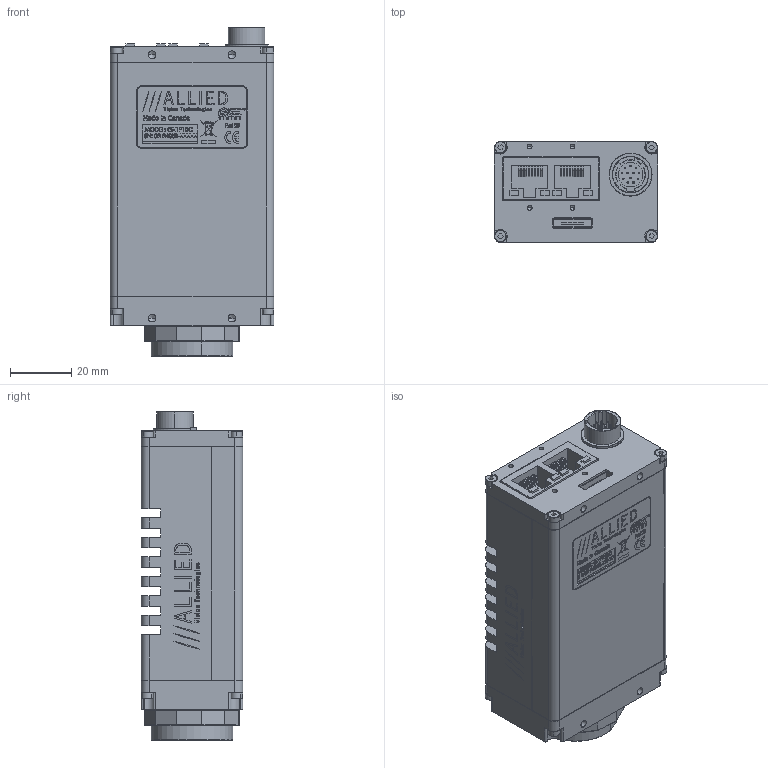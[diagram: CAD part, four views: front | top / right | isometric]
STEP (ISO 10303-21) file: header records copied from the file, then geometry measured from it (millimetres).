
FILE_DESCRIPTION (( 'STEP AP214' ), '1' );
FILE_NAME ('GX1910C.STEP', '2013-08-07T18:16:31', ( '' ), ( '' ), 'SwSTEP 2.0', 'SolidWorks 2013', '' );
FILE_SCHEMA (( 'AUTOMOTIVE_DESIGN' ));
Length unit declared in the file: millimetre
Products named in the file (25): KODAK KAI-02150 WINDOW; 200114A-GX MAIN PCBA; KODAK KAI-02150 BODY; 260043-HALO HFJ12-1G16ER-L12RL; 140061-SCREW SKT CAP M2x8 SS; 110099B-GX BOTTOM COVER-THERMAL_Finished; GX1910C; 200115A-GX POWER PCBA; 260048-HIROSE 3260-8S3; 100171A - GX BACK ASSY; 110097A-GX BACK PLATE; 260034-HIROSE HR10A-10R-12PB; 740115B-GX1910C THERMAL LABEL PRINT; 100170A - GX1910C FRONT ASSY; 110103A-GX CCD GASKET; 110031A-B EC-CCD LOCKING RING; 110098A-GX FRONT PLATE; 100097A-IR FILTER ASSEMBLY 0.75 INCH; 440002-IR CUT FILTER 22MM DIA; 110054AB-IR FILTER SUPPORT; 740102B-GX SERIES LABEL; 110003AC-CV CMOUNT RING; 100172B - GX BODY ASSY-THERMAL; 220142-KODAK KAI-02150-CBA; 110100B-GX TOP COVER-THERMAL_Finished
Assembly tree (31 placements, depth 4):
  GX1910C
    140061-SCREW SKT CAP M2x8 SS  x4
    100170A - GX1910C FRONT ASSY
      220142-KODAK KAI-02150-CBA
        KODAK KAI-02150 BODY
        KODAK KAI-02150 WINDOW
      110003AC-CV CMOUNT RING
      100097A-IR FILTER ASSEMBLY 0.75 INCH
        110054AB-IR FILTER SUPPORT
        440002-IR CUT FILTER 22MM DIA
      110098A-GX FRONT PLATE
      110031A-B EC-CCD LOCKING RING
      110103A-GX CCD GASKET
    740115B-GX1910C THERMAL LABEL PRINT
    100172B - GX BODY ASSY-THERMAL
      100171A - GX BACK ASSY
        260034-HIROSE HR10A-10R-12PB
        110097A-GX BACK PLATE
      140061-SCREW SKT CAP M2x8 SS  x4
      200115A-GX POWER PCBA
        260048-HIROSE 3260-8S3
      110099B-GX BOTTOM COVER-THERMAL_Finished
      200114A-GX MAIN PCBA
        260043-HALO HFJ12-1G16ER-L12RL
      110100B-GX TOP COVER-THERMAL_Finished
    740102B-GX SERIES LABEL
Bounding box: 53.39 x 33.02 x 107.17 mm (x, y, z)
Volume: 79996.1 mm3; surface area: 73333.7 mm2
Topology: 68 solids, 68 shells, 4132 faces, 10695 edges, 6954 vertices
Faces by surface type: plane 2254, bspline 901, cylinder 719, cone 258
Entity records: 199877 total; most frequent: CARTESIAN_POINT 61398, ORIENTED_EDGE 20622, DIRECTION 16377, EDGE_CURVE 10311, VECTOR 6941, LINE 6941, VERTEX_POINT 6786, AXIS2_PLACEMENT_3D 4718
